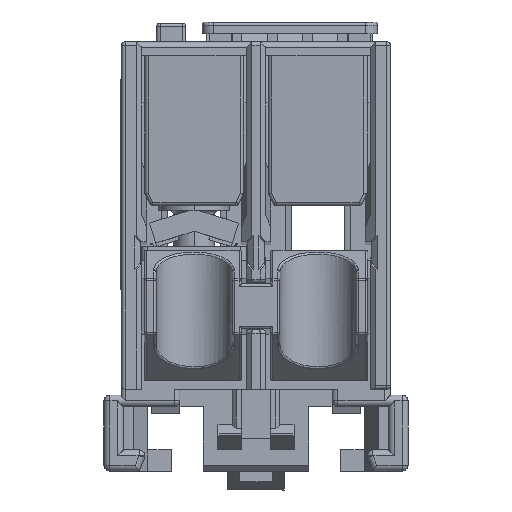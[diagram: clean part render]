
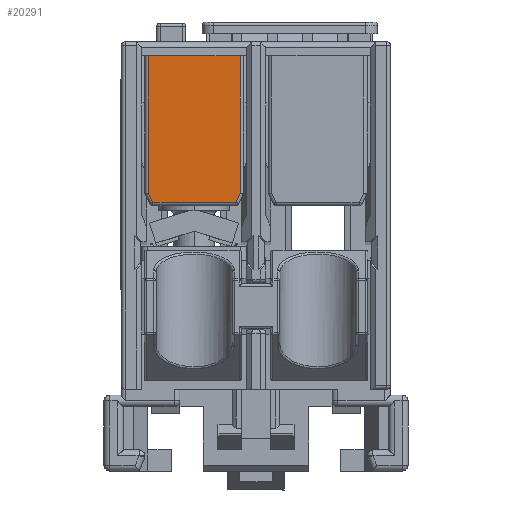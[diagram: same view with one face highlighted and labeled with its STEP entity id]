
A CAD part, front view. The second image highlights one B-rep face of the part: STEP entity #20291.
In plain terms, the highlighted planar face has unit normal (0, -0.999, -0.039) as drawn and (-0.039, 0.999, 0) by its records, which use the part's own axes.
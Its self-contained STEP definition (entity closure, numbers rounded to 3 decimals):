
#5245 = ORIENTED_EDGE ( 'NONE', *, *, #99410, .F. ) ;
#9122 = VERTEX_POINT ( 'NONE', #97509 ) ;
#11169 = DIRECTION ( 'NONE',  ( 0., 0., -1. ) ) ;
#12732 = CARTESIAN_POINT ( 'NONE',  ( -11.741, 19.641, -1.35 ) ) ;
#14715 = LINE ( 'NONE', #82034, #67688 ) ;
#15229 = DIRECTION ( 'NONE',  ( -0.039, 0.999, 0. ) ) ;
#17098 = DIRECTION ( 'NONE',  ( 0.999, 0.039, 0. ) ) ;
#20291 = ADVANCED_FACE ( 'NONE', ( #38247 ), #144718, .T. ) ;
#25469 = CARTESIAN_POINT ( 'NONE',  ( -6.4, 19.85, -5.275 ) ) ;
#27174 = DIRECTION ( 'NONE',  ( 0., 0., 1. ) ) ;
#37335 = VECTOR ( 'NONE', #17098, 1000. ) ;
#38247 = FACE_OUTER_BOUND ( 'NONE', #45424, .T. ) ;
#43061 = EDGE_CURVE ( 'NONE', #159454, #95775, #127715, .T. ) ;
#45424 = EDGE_LOOP ( 'NONE', ( #95944, #5245, #163209, #145852, #139026, #136394 ) ) ;
#47127 = CARTESIAN_POINT ( 'NONE',  ( 0., 20.1, -1.35 ) ) ;
#50182 = CARTESIAN_POINT ( 'NONE',  ( 0., 20.1, -1.35 ) ) ;
#54756 = DIRECTION ( 'NONE',  ( 0.894, 0.035, 0.447 ) ) ;
#58087 = EDGE_CURVE ( 'NONE', #150201, #95775, #106583, .T. ) ;
#58955 = LINE ( 'NONE', #97343, #118332 ) ;
#65009 = CARTESIAN_POINT ( 'NONE',  ( 0., 20.1, -9.2 ) ) ;
#67688 = VECTOR ( 'NONE', #54756, 1000. ) ;
#82034 = CARTESIAN_POINT ( 'NONE',  ( -12.512, 19.611, -1.735 ) ) ;
#83743 = DIRECTION ( 'NONE',  ( -0.894, -0.035, 0.447 ) ) ;
#84552 = VECTOR ( 'NONE', #84698, 1000. ) ;
#84698 = DIRECTION ( 'NONE',  ( -0.999, -0.039, 0. ) ) ;
#85348 = LINE ( 'NONE', #99784, #115263 ) ;
#95775 = VERTEX_POINT ( 'NONE', #65009 ) ;
#95944 = ORIENTED_EDGE ( 'NONE', *, *, #100402, .T. ) ;
#97343 = CARTESIAN_POINT ( 'NONE',  ( -11.741, 19.641, -9.2 ) ) ;
#97509 = CARTESIAN_POINT ( 'NONE',  ( -12.512, 19.611, -8.815 ) ) ;
#99410 = EDGE_CURVE ( 'NONE', #108687, #9122, #85348, .T. ) ;
#99780 = CARTESIAN_POINT ( 'NONE',  ( -12.512, 19.611, -1.735 ) ) ;
#99784 = CARTESIAN_POINT ( 'NONE',  ( -12.512, 19.611, -1.735 ) ) ;
#100402 = EDGE_CURVE ( 'NONE', #150201, #9122, #58955, .T. ) ;
#100467 = DIRECTION ( 'NONE',  ( 0., 0., -1. ) ) ;
#106583 = LINE ( 'NONE', #107413, #37335 ) ;
#107413 = CARTESIAN_POINT ( 'NONE',  ( -11.741, 19.641, -9.2 ) ) ;
#107705 = VERTEX_POINT ( 'NONE', #12732 ) ;
#108687 = VERTEX_POINT ( 'NONE', #99780 ) ;
#115263 = VECTOR ( 'NONE', #11169, 1000. ) ;
#118332 = VECTOR ( 'NONE', #83743, 1000. ) ;
#123664 = EDGE_CURVE ( 'NONE', #108687, #107705, #14715, .T. ) ;
#125624 = VECTOR ( 'NONE', #100467, 1000. ) ;
#125817 = AXIS2_PLACEMENT_3D ( 'NONE', #25469, #15229, #27174 ) ;
#127715 = LINE ( 'NONE', #50182, #125624 ) ;
#129475 = EDGE_CURVE ( 'NONE', #159454, #107705, #135810, .T. ) ;
#135810 = LINE ( 'NONE', #149419, #84552 ) ;
#136394 = ORIENTED_EDGE ( 'NONE', *, *, #58087, .F. ) ;
#139026 = ORIENTED_EDGE ( 'NONE', *, *, #43061, .T. ) ;
#144718 = PLANE ( 'NONE',  #125817 ) ;
#145852 = ORIENTED_EDGE ( 'NONE', *, *, #129475, .F. ) ;
#147552 = CARTESIAN_POINT ( 'NONE',  ( -11.741, 19.641, -9.2 ) ) ;
#149419 = CARTESIAN_POINT ( 'NONE',  ( 0., 20.1, -1.35 ) ) ;
#150201 = VERTEX_POINT ( 'NONE', #147552 ) ;
#159454 = VERTEX_POINT ( 'NONE', #47127 ) ;
#163209 = ORIENTED_EDGE ( 'NONE', *, *, #123664, .T. ) ;
